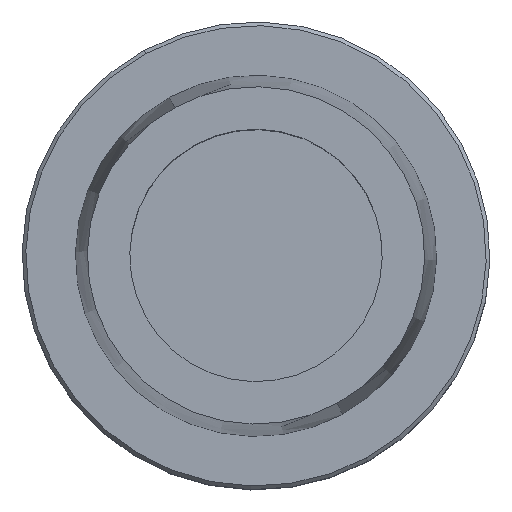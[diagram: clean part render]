
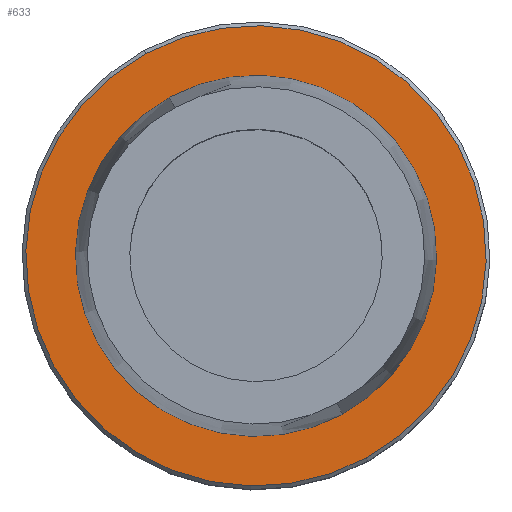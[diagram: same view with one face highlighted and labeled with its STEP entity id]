
A CAD part, top view. The second image highlights one B-rep face of the part: STEP entity #633.
In plain terms, the highlighted planar face has unit normal (0, 0, 1).
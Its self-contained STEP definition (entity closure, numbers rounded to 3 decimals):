
#121=AXIS2_PLACEMENT_3D('Circle Axis2P3D',#119,#120,$) ;
#169=AXIS2_PLACEMENT_3D('Circle Axis2P3D',#167,#168,$) ;
#604=AXIS2_PLACEMENT_3D('Circle Axis2P3D',#602,#603,$) ;
#618=AXIS2_PLACEMENT_3D('Plane Axis2P3D',#615,#616,#617) ;
#622=AXIS2_PLACEMENT_3D('Circle Axis2P3D',#620,#621,$) ;
#119=CARTESIAN_POINT('Axis2P3D Location',(0.,0.,0.)) ;
#123=CARTESIAN_POINT('Vertex',(11.66,-21.343,0.)) ;
#125=CARTESIAN_POINT('Vertex',(-11.66,21.343,0.)) ;
#164=CARTESIAN_POINT('Vertex',(-14.862,27.205,0.)) ;
#167=CARTESIAN_POINT('Axis2P3D Location',(0.,0.,0.)) ;
#171=CARTESIAN_POINT('Vertex',(14.862,-27.205,0.)) ;
#602=CARTESIAN_POINT('Axis2P3D Location',(0.,0.,0.)) ;
#615=CARTESIAN_POINT('Axis2P3D Location',(0.,-24.321,0.)) ;
#620=CARTESIAN_POINT('Axis2P3D Location',(0.,0.,0.)) ;
#120=DIRECTION('Axis2P3D Direction',(0.,0.,-1.)) ;
#168=DIRECTION('Axis2P3D Direction',(0.,0.,-1.)) ;
#603=DIRECTION('Axis2P3D Direction',(0.,0.,-1.)) ;
#616=DIRECTION('Axis2P3D Direction',(0.,0.,-1.)) ;
#617=DIRECTION('Axis2P3D XDirection',(-1.,0.,0.)) ;
#621=DIRECTION('Axis2P3D Direction',(0.,0.,-1.)) ;
#626=ORIENTED_EDGE('',*,*,#173,.T.) ;
#627=ORIENTED_EDGE('',*,*,#624,.T.) ;
#630=ORIENTED_EDGE('',*,*,#606,.F.) ;
#631=ORIENTED_EDGE('',*,*,#127,.F.) ;
#632=FACE_BOUND('',#629,.T.) ;
#633=ADVANCED_FACE('NOCUT',(#628,#632),#619,.F.) ;
#122=CIRCLE('generated circle',#121,24.321) ;
#170=CIRCLE('generated circle',#169,31.) ;
#605=CIRCLE('generated circle',#604,24.321) ;
#623=CIRCLE('generated circle',#622,31.) ;
#127=EDGE_CURVE('',#124,#126,#122,.F.) ;
#173=EDGE_CURVE('',#172,#165,#170,.F.) ;
#606=EDGE_CURVE('',#126,#124,#605,.F.) ;
#624=EDGE_CURVE('',#165,#172,#623,.F.) ;
#625=EDGE_LOOP('',(#626,#627)) ;
#629=EDGE_LOOP('',(#630,#631)) ;
#628=FACE_OUTER_BOUND('',#625,.T.) ;
#619=PLANE('',#618) ;
#124=VERTEX_POINT('',#123) ;
#126=VERTEX_POINT('',#125) ;
#165=VERTEX_POINT('',#164) ;
#172=VERTEX_POINT('',#171) ;
